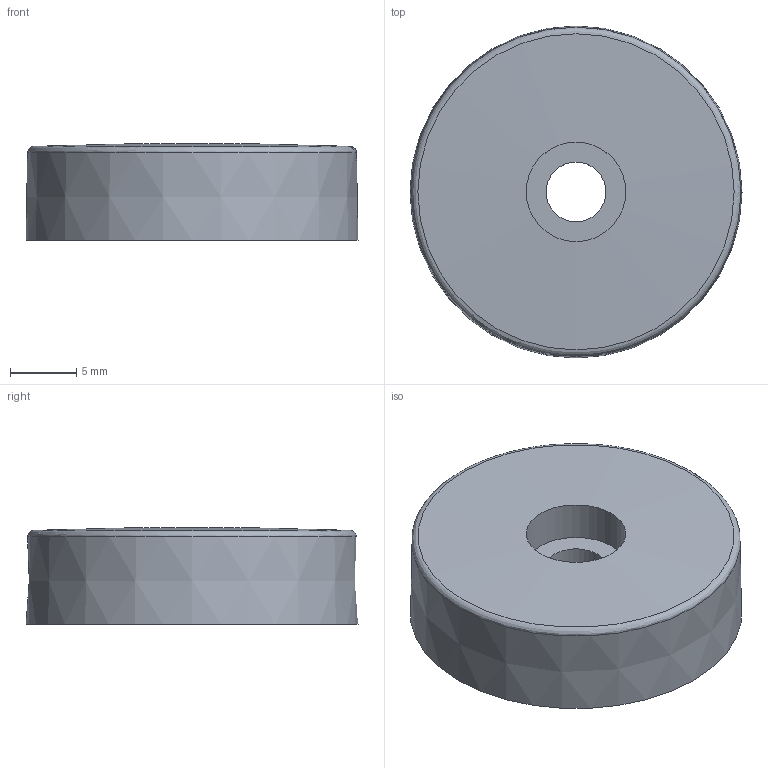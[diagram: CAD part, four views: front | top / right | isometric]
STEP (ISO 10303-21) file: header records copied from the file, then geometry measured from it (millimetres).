
FILE_DESCRIPTION(/* description */ ('Katalogmodell Elobau'),/* implementation_level */ '2;1');
FILE_NAME(/* name */ '324790_B.stp',/* time_stamp */ '2014-06-25T15:57:54+02:00',/* author */ ('Elobau GmbH & Co. KG'),/* organization */ ('Elobau GmbH & Co. KG'),/* preprocessor_version */ 'ST-DEVELOPER v15',/* originating_system */ 'SIEMENS PLM Software NX 8.5',/* authorisation */ '');
FILE_SCHEMA (('AUTOMOTIVE_DESIGN { 1 0 10303 214 3 1 1 1 }'));
Length unit declared in the file: millimetre
Products named in the file (1): 324790_B
Bounding box: 25 x 25 x 7.3 mm (x, y, z)
Volume: 3294.2 mm3; surface area: 1609.9 mm2
Topology: 1 solids, 1 shells, 7 faces, 13 edges, 8 vertices
Faces by surface type: plane 2, cylinder 2, cone 1, bspline 1, sphere 1
Full cylindrical faces by diameter (mm): 4.5 x1, 7.5 x1
Entity records: 189 total; most frequent: CARTESIAN_POINT 42, DIRECTION 28, FACE_BOUND 14, EDGE_LOOP 14, ORIENTED_EDGE 14, AXIS2_PLACEMENT_3D 14, ADVANCED_FACE 7, VERTEX_POINT 7
